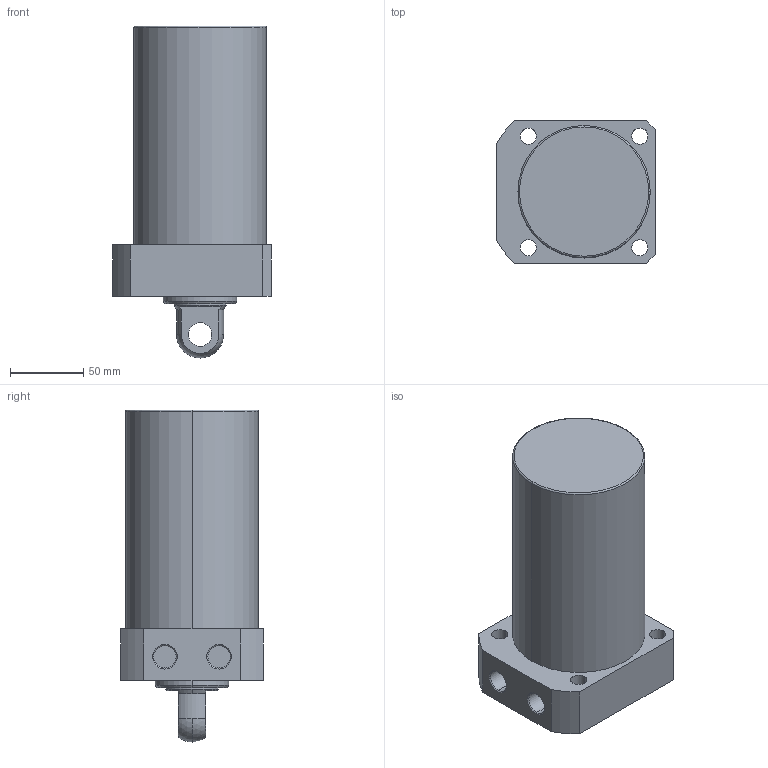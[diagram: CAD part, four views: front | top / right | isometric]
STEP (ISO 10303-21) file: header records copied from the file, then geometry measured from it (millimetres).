
FILE_DESCRIPTION (( 'STEP AP203' ), '1' );
FILE_NAME ('CLLR-090CP-105.STEP', '2019-12-18T06:54:12', ( '' ), ( '' ), 'SwSTEP 2.0', 'SolidWorks 2015', '' );
FILE_SCHEMA (( 'CONFIG_CONTROL_DESIGN' ));
Length unit declared in the file: millimetre
Products named in the file (1): CLLR-090CP-105
Bounding box: 108 x 97 x 226 mm (x, y, z)
Volume: 1312067.4 mm3; surface area: 86194.5 mm2
Topology: 1 solids, 1 shells, 59 faces, 139 edges, 89 vertices
Faces by surface type: cylinder 29, plane 18, cone 8, sphere 2, torus 2
Entity records: 1822 total; most frequent: DIRECTION 331, CARTESIAN_POINT 300, ORIENTED_EDGE 278, EDGE_CURVE 139, AXIS2_PLACEMENT_3D 136, VERTEX_POINT 89, EDGE_LOOP 76, CIRCLE 76
